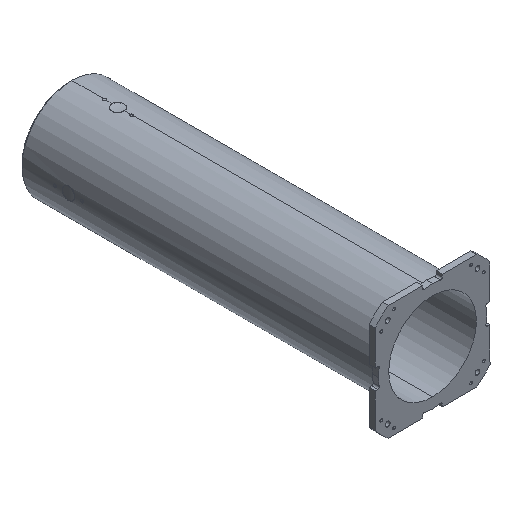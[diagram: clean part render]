
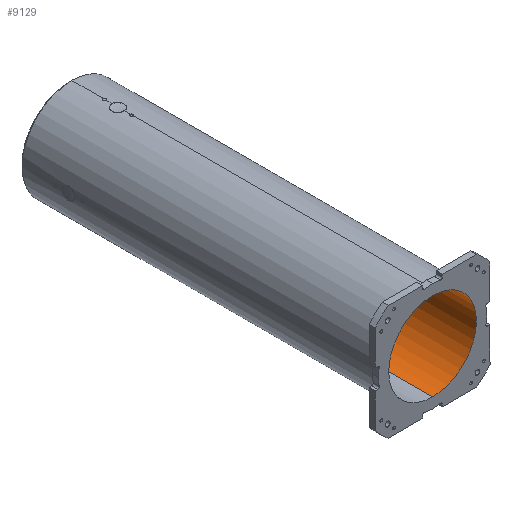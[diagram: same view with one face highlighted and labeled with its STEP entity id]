
A CAD part, isometric view. The second image highlights one B-rep face of the part: STEP entity #9129.
In plain terms, the highlighted cylindrical face has radius 145 mm (diameter 290 mm), a partial arc.
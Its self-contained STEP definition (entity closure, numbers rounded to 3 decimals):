
#74 = CYLINDRICAL_SURFACE ( 'NONE', #6947, 145. ) ;
#351 = AXIS2_PLACEMENT_3D ( 'NONE', #9763, #1053, #4935 ) ;
#927 = VERTEX_POINT ( 'NONE', #9594 ) ;
#1053 = DIRECTION ( 'NONE',  ( 0., 1., 0. ) ) ;
#1143 = ORIENTED_EDGE ( 'NONE', *, *, #3280, .T. ) ;
#1366 = CIRCLE ( 'NONE', #351, 145. ) ;
#1443 = CARTESIAN_POINT ( 'NONE',  ( 0., 0., -145. ) ) ;
#1533 = CARTESIAN_POINT ( 'NONE',  ( 0., 1182., -145. ) ) ;
#1801 = VERTEX_POINT ( 'NONE', #1533 ) ;
#2053 = VECTOR ( 'NONE', #5069, 1000. ) ;
#3015 = ORIENTED_EDGE ( 'NONE', *, *, #11966, .F. ) ;
#3077 = LINE ( 'NONE', #3378, #2053 ) ;
#3280 = EDGE_CURVE ( 'NONE', #1801, #5277, #10161, .T. ) ;
#3283 = CARTESIAN_POINT ( 'NONE',  ( 0., 1182., 145. ) ) ;
#3378 = CARTESIAN_POINT ( 'NONE',  ( 0., 0., 145. ) ) ;
#3622 = CARTESIAN_POINT ( 'NONE',  ( 0., 0., 0. ) ) ;
#4009 = EDGE_CURVE ( 'NONE', #5277, #927, #11757, .T. ) ;
#4089 = VERTEX_POINT ( 'NONE', #3283 ) ;
#4785 = CARTESIAN_POINT ( 'NONE',  ( 0., 0., 0. ) ) ;
#4935 = DIRECTION ( 'NONE',  ( 0., 0., -1. ) ) ;
#5069 = DIRECTION ( 'NONE',  ( 0., -1., 0. ) ) ;
#5277 = VERTEX_POINT ( 'NONE', #9805 ) ;
#5320 = DIRECTION ( 'NONE',  ( 0., -1., 0. ) ) ;
#5678 = VECTOR ( 'NONE', #5320, 1000. ) ;
#6947 = AXIS2_PLACEMENT_3D ( 'NONE', #4785, #7716, #9674 ) ;
#7557 = EDGE_LOOP ( 'NONE', ( #3015, #12100, #1143, #10539 ) ) ;
#7716 = DIRECTION ( 'NONE',  ( 0., -1., 0. ) ) ;
#8478 = DIRECTION ( 'NONE',  ( 0., 0., -1. ) ) ;
#8608 = FACE_OUTER_BOUND ( 'NONE', #7557, .T. ) ;
#9111 = AXIS2_PLACEMENT_3D ( 'NONE', #3622, #10252, #8478 ) ;
#9129 = ADVANCED_FACE ( 'NONE', ( #8608 ), #74, .F. ) ;
#9594 = CARTESIAN_POINT ( 'NONE',  ( 0., 0., 145. ) ) ;
#9674 = DIRECTION ( 'NONE',  ( 0., 0., -1. ) ) ;
#9763 = CARTESIAN_POINT ( 'NONE',  ( 0., 1182., 0. ) ) ;
#9805 = CARTESIAN_POINT ( 'NONE',  ( 0., 0., -145. ) ) ;
#10161 = LINE ( 'NONE', #1443, #5678 ) ;
#10252 = DIRECTION ( 'NONE',  ( 0., -1., 0. ) ) ;
#10539 = ORIENTED_EDGE ( 'NONE', *, *, #4009, .T. ) ;
#11313 = EDGE_CURVE ( 'NONE', #4089, #1801, #1366, .T. ) ;
#11757 = CIRCLE ( 'NONE', #9111, 145. ) ;
#11966 = EDGE_CURVE ( 'NONE', #4089, #927, #3077, .T. ) ;
#12100 = ORIENTED_EDGE ( 'NONE', *, *, #11313, .T. ) ;
